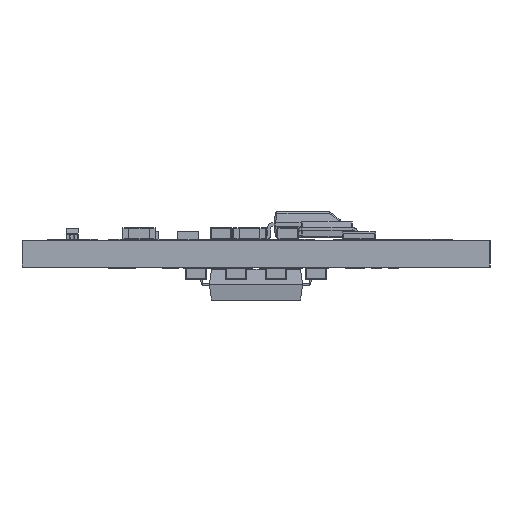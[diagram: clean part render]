
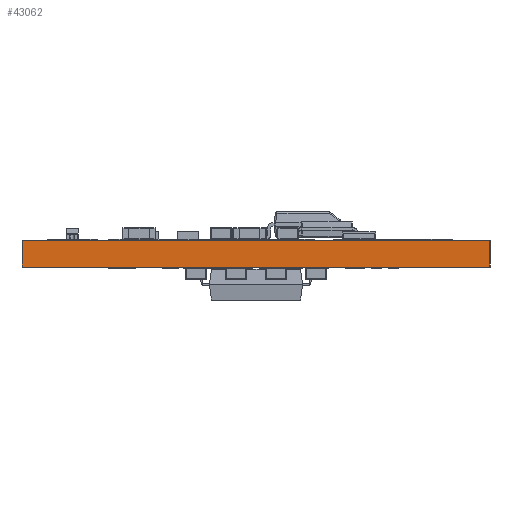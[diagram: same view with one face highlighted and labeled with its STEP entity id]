
A CAD part, left-side view. The second image highlights one B-rep face of the part: STEP entity #43062.
In plain terms, the highlighted planar face has unit normal (-1, 0, 0).
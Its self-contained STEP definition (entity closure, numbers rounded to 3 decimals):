
#4358 = CARTESIAN_POINT ( 'NONE',  ( -13.996, -14., -0.035 ) ) ;
#8765 = ORIENTED_EDGE ( 'NONE', *, *, #111696, .F. ) ;
#11941 = DIRECTION ( 'NONE',  ( -1., 0., 0. ) ) ;
#12545 = VERTEX_POINT ( 'NONE', #4358 ) ;
#14941 = CARTESIAN_POINT ( 'NONE',  ( -13.996, -14., -0.835 ) ) ;
#16872 = CARTESIAN_POINT ( 'NONE',  ( -13.996, 14., -1.635 ) ) ;
#30156 = LINE ( 'NONE', #96261, #55125 ) ;
#30356 = ORIENTED_EDGE ( 'NONE', *, *, #41321, .T. ) ;
#32422 = DIRECTION ( 'NONE',  ( 0., -1., 0. ) ) ;
#34336 = CARTESIAN_POINT ( 'NONE',  ( -13.996, 14., -0.035 ) ) ;
#41321 = EDGE_CURVE ( 'NONE', #117972, #12545, #117494, .T. ) ;
#42372 = FACE_OUTER_BOUND ( 'NONE', #101066, .T. ) ;
#43062 = ADVANCED_FACE ( 'NONE', ( #42372 ), #118245, .T. ) ;
#43063 = DIRECTION ( 'NONE',  ( 0., 0., -1. ) ) ;
#44528 = VERTEX_POINT ( 'NONE', #127687 ) ;
#48168 = EDGE_CURVE ( 'NONE', #63043, #117972, #84603, .T. ) ;
#49429 = VECTOR ( 'NONE', #50258, 1000. ) ;
#50258 = DIRECTION ( 'NONE',  ( 0., -1., 0. ) ) ;
#53494 = AXIS2_PLACEMENT_3D ( 'NONE', #34336, #11941, #108880 ) ;
#54295 = CARTESIAN_POINT ( 'NONE',  ( -13.996, 0., -0.035 ) ) ;
#55125 = VECTOR ( 'NONE', #43063, 1000. ) ;
#57632 = LINE ( 'NONE', #54295, #82704 ) ;
#63043 = VERTEX_POINT ( 'NONE', #16872 ) ;
#65912 = VECTOR ( 'NONE', #78895, 1000. ) ;
#72688 = CARTESIAN_POINT ( 'NONE',  ( -13.996, -14., -1.635 ) ) ;
#78895 = DIRECTION ( 'NONE',  ( 0., 0., 1. ) ) ;
#82055 = CARTESIAN_POINT ( 'NONE',  ( -13.996, 0., -1.635 ) ) ;
#82704 = VECTOR ( 'NONE', #32422, 1000. ) ;
#83505 = ORIENTED_EDGE ( 'NONE', *, *, #95673, .T. ) ;
#84603 = LINE ( 'NONE', #82055, #49429 ) ;
#95673 = EDGE_CURVE ( 'NONE', #44528, #63043, #30156, .T. ) ;
#96261 = CARTESIAN_POINT ( 'NONE',  ( -13.996, 14., -0.835 ) ) ;
#101066 = EDGE_LOOP ( 'NONE', ( #83505, #114477, #30356, #8765 ) ) ;
#108880 = DIRECTION ( 'NONE',  ( 0., 0., -1. ) ) ;
#111696 = EDGE_CURVE ( 'NONE', #44528, #12545, #57632, .T. ) ;
#114477 = ORIENTED_EDGE ( 'NONE', *, *, #48168, .T. ) ;
#117494 = LINE ( 'NONE', #14941, #65912 ) ;
#117972 = VERTEX_POINT ( 'NONE', #72688 ) ;
#118245 = PLANE ( 'NONE',  #53494 ) ;
#127687 = CARTESIAN_POINT ( 'NONE',  ( -13.996, 14., -0.035 ) ) ;
